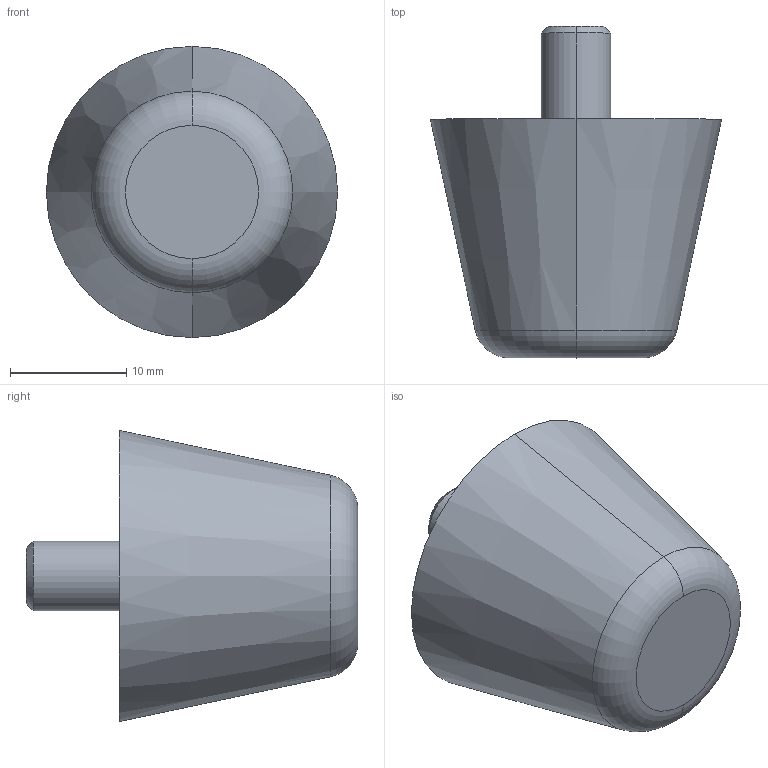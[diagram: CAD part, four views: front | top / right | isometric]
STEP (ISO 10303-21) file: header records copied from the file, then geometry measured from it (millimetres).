
FILE_DESCRIPTION (( 'STEP AP214' ), '1' );
FILE_NAME ('253-25-M6-8-40.step', '2023-03-24T07:37:20', ( '' ), ( '' ), 'SwSTEP 2.0', 'SolidWorks 2022', '' );
FILE_SCHEMA (( 'AUTOMOTIVE_DESIGN' ));
Length unit declared in the file: millimetre
Products named in the file (1): 253-25-M6-8-40
Bounding box: 25 x 28.49 x 25 mm (x, y, z)
Volume: 7129.8 mm3; surface area: 2160.8 mm2
Topology: 1 solids, 1 shells, 14 faces, 26 edges, 16 vertices
Faces by surface type: cone 6, plane 4, cylinder 2, torus 2
Entity records: 500 total; most frequent: DIRECTION 74, CARTESIAN_POINT 57, ORIENTED_EDGE 52, AXIS2_PLACEMENT_3D 33, EDGE_CURVE 26, CIRCLE 18, EDGE_LOOP 16, VERTEX_POINT 16
